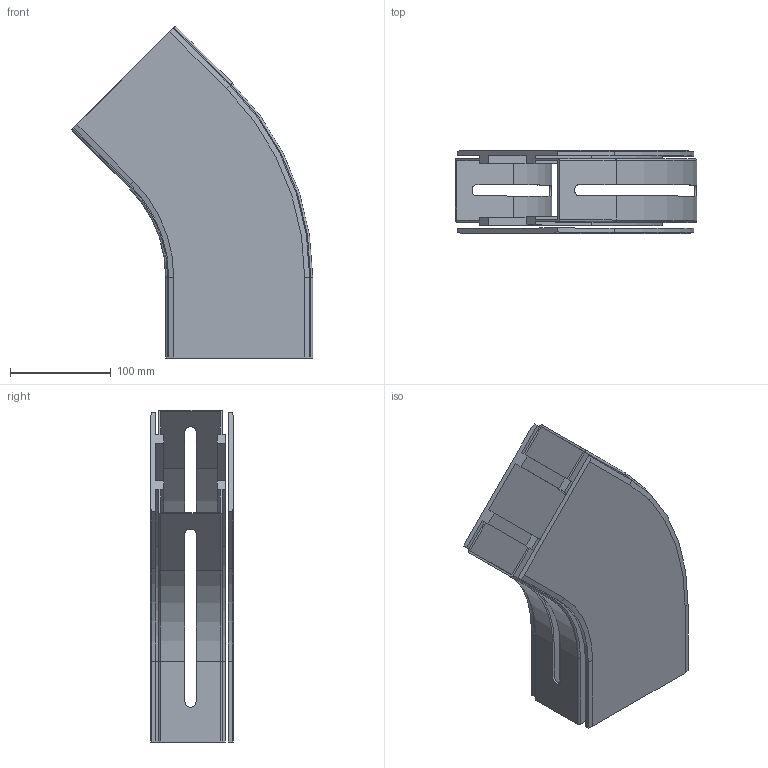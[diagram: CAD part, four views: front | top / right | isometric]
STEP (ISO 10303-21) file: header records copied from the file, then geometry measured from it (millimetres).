
FILE_DESCRIPTION((''),'2;1');
FILE_NAME('C:\Vault Klient\Projekt\Koncept konstruktion\Serie 540 Balk\540-5150.stp','2010-11-24T10:19:08',('Mathias'),(''),'Autodesk Inventor 2011','Autodesk Inventor 2011','');
FILE_SCHEMA(('AUTOMOTIVE_DESIGN { 1 0 10303 214 1 1 1 1 }'));
Length unit declared in the file: millimetre
Products named in the file (1): 540-5150
Bounding box: 239.77 x 82 x 329.61 mm (x, y, z)
Volume: 716115.4 mm3; surface area: 371716.3 mm2
Topology: 2 solids, 2 shells, 155 faces, 434 edges, 284 vertices
Faces by surface type: plane 97, cylinder 34, bspline 14, cone 6, torus 4
Entity records: 5130 total; most frequent: CARTESIAN_POINT 1068, ORIENTED_EDGE 868, DIRECTION 770, EDGE_CURVE 434, VECTOR 326, LINE 326, VERTEX_POINT 284, AXIS2_PLACEMENT_3D 222
